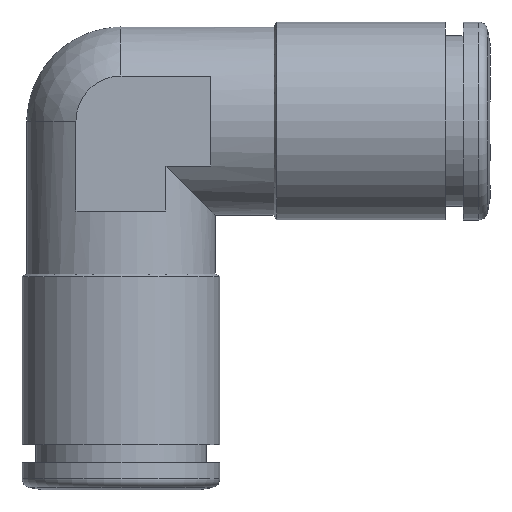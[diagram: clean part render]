
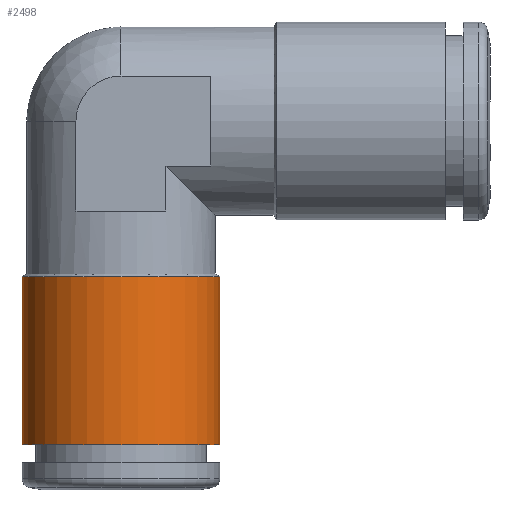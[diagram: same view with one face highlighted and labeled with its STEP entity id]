
A CAD part, front view. The second image highlights one B-rep face of the part: STEP entity #2498.
In plain terms, the highlighted cylindrical face has radius 5.5 mm (diameter 11 mm), a full revolution.
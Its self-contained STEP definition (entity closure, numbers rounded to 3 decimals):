
#1168=CYLINDRICAL_SURFACE('',#2348,5.5);
#1190=ORIENTED_EDGE('',*,*,#1504,.F.);
#1191=ORIENTED_EDGE('',*,*,#1502,.T.);
#1370=CIRCLE('',#2346,5.5);
#1372=CIRCLE('',#2349,5.5);
#1426=VERTEX_POINT('',#2108);
#1428=VERTEX_POINT('',#2113);
#1502=EDGE_CURVE('',#1426,#1426,#1370,.T.);
#1504=EDGE_CURVE('',#1428,#1428,#1372,.T.);
#1595=EDGE_LOOP('',(#1190));
#1596=EDGE_LOOP('',(#1191));
#1706=FACE_BOUND('',#1595,.T.);
#1707=FACE_BOUND('',#1596,.T.);
#1819=DIRECTION('',(0.,1.,0.));
#1820=DIRECTION('',(-5.5,0.,0.));
#1823=DIRECTION('',(0.,-1.,0.));
#1824=DIRECTION('',(-1.,0.,0.));
#1825=DIRECTION('',(0.,1.,0.));
#1826=DIRECTION('',(-5.5,0.,0.));
#2108=CARTESIAN_POINT('',(-5.5,0.,0.));
#2109=CARTESIAN_POINT('',(0.,0.,0.));
#2112=CARTESIAN_POINT('',(0.,9.356,0.));
#2113=CARTESIAN_POINT('',(-5.5,9.356,0.));
#2114=CARTESIAN_POINT('',(0.,9.356,0.));
#2346=AXIS2_PLACEMENT_3D('',#2109,#1819,#1820);
#2348=AXIS2_PLACEMENT_3D('',#2112,#1823,#1824);
#2349=AXIS2_PLACEMENT_3D('',#2114,#1825,#1826);
#2498=ADVANCED_FACE('',(#1706,#1707),#1168,.T.);
